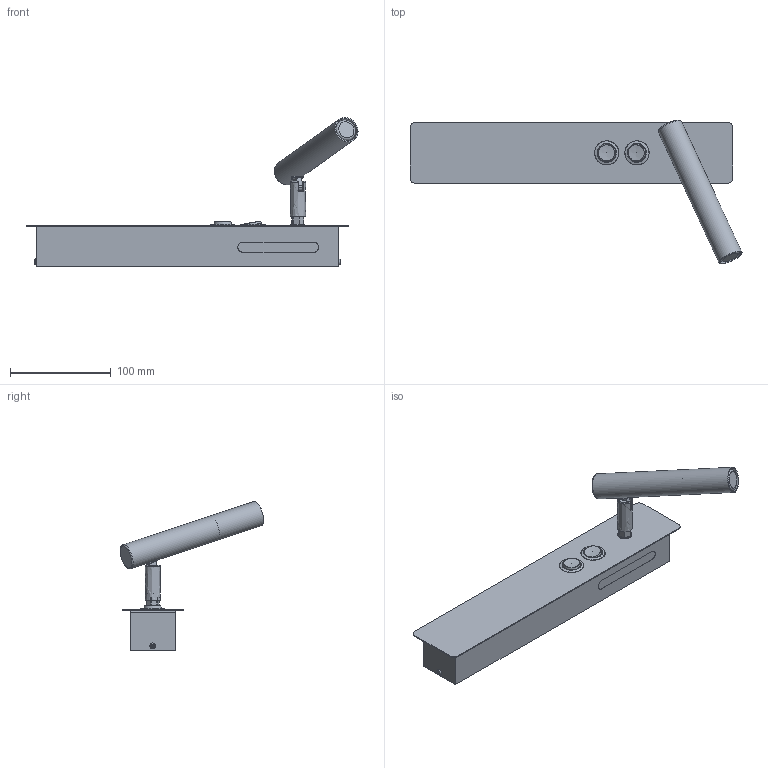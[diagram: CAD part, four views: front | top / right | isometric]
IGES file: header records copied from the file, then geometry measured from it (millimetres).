
Global section: file name: F:\\_Liczy si\X2\0119\X0\ s\X2\0142\X0\owo\\_Modelowanie SIGMA\\Hotel Mood kinkiet D\\gotowe\\Hotel Mood kinkiet D.igs; native system: HarmonyWare Translators; preprocessor: HarmonyWare IGES v2.1.4; date: 20251201.222904; units: centimetre
Bounding box: 329.14 x 142.39 x 147.58 mm (x, y, z)
Volume: 607696 mm3; surface area: 138092.9 mm2
Topology: 16 solids, 16 shells, 378 faces, 1027 edges, 676 vertices
Faces by surface type: bspline 378
